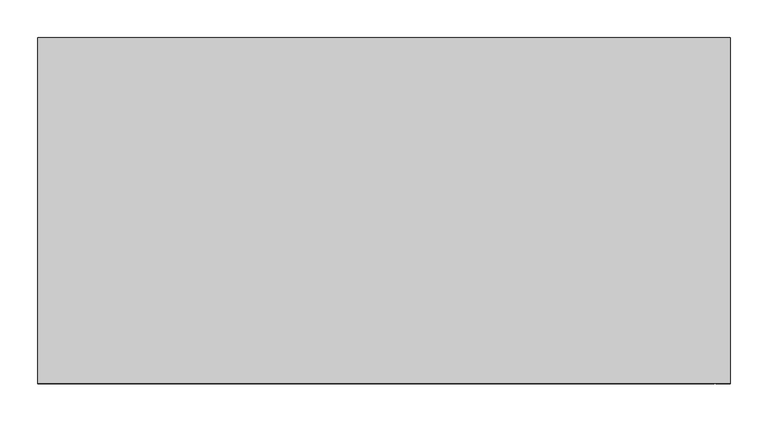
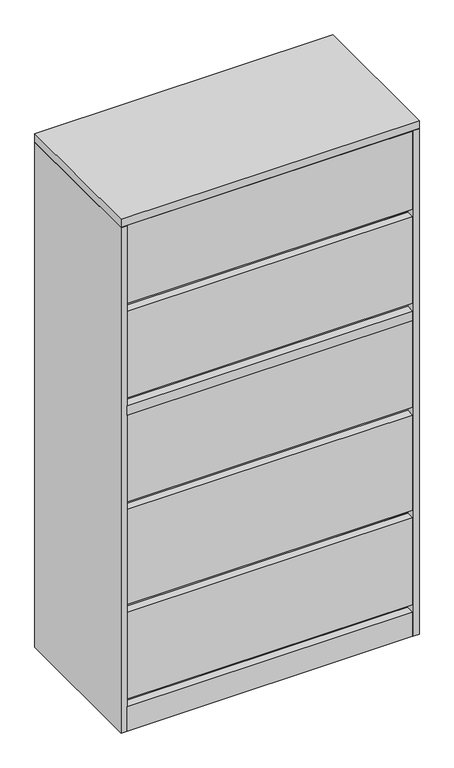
"""IFC4 building model written with IfcOpenShell, lengths in millimetres: furniture geometry, Steelcase - 900 Series - Storage - Lateral File With Posting Shelf - Flush Steel : One 12H Lift Up Door - 36W."""

from ifc_helpers import new_model, si_unit, frame, origin, origin_with_axes, place, context, project, spatial, polyline, outline, extrude, faceted_brep, source, transform, mapped, element, save


def furniture_d6017de1(model_context):
    return source(origin(), model_context, "Body", "SolidModel", [
        extrude(outline(polyline([(893.5722015, -457.2), (20.8289612, -457.2), (20.8289612, -431.800255), (893.5722015, -431.800255), (893.5722015, -457.2)])), frame((0.0, 0.0, 103.3780013), z_axis=(0.0, 0.0, 1.0), x_axis=(1.0, 0.0, 0.0)), (0.0, 0.0, 1.0), 280.7461987),
        extrude(outline(polyline([(893.5722015, -457.2), (20.8289612, -457.2), (20.8289612, -431.800255), (893.5722015, -431.800255), (893.5722015, -457.2)])), frame((0.0, 0.0, 409.5242), z_axis=(0.0, 0.0, 1.0), x_axis=(1.0, 0.0, 0.0)), (0.0, 0.0, 1.0), 307.54066),
        extrude(outline(polyline([(893.5722015, -457.2), (20.8289612, -457.2), (20.8289612, -431.800255), (893.5722015, -431.800255), (893.5722015, -457.2)])), frame((0.0, 0.0, 742.46486), z_axis=(0.0, 0.0, 1.0), x_axis=(1.0, 0.0, 0.0)), (0.0, 0.0, 1.0), 279.4),
        extrude(outline(polyline([(893.5722015, -457.2), (20.8289612, -457.2), (20.8289612, -431.800255), (893.5722015, -431.800255), (893.5722015, -457.2)])), frame((0.0, 0.0, 1079.5), z_axis=(0.0, 0.0, 1.0), x_axis=(1.0, 0.0, 0.0)), (0.0, 0.0, 1.0), 279.4),
        extrude(outline(polyline([(893.5722015, -457.2), (20.8289612, -457.2), (20.8289612, -431.800255), (893.5722015, -431.800255), (893.5722015, -457.2)])), frame((0.0, 0.0, 1384.3), z_axis=(0.0, 0.0, 1.0), x_axis=(1.0, 0.0, 0.0)), (0.0, 0.0, 1.0), 252.3046248),
        extrude(outline(polyline([(893.5722015, -457.2), (19.3039998, -457.2), (19.3039998, -431.800255), (893.5722015, -431.800255), (893.5722015, -457.2)])), frame((0.0, 0.0, 1022.5278), z_axis=(0.0, 0.0, 1.0), x_axis=(1.0, 0.0, 0.0)), (0.0, 0.0, 1.0), 31.5722),
        extrude(outline(polyline([(895.0960184, -25.2721219), (895.0960184, -431.800255), (19.3039998, -431.800255), (19.3039998, -25.2721219), (895.0960184, -25.2721219)])), frame((0.0, 0.0, 1358.9), z_axis=(0.0, 0.0, 1.0), x_axis=(1.0, 0.0, 0.0)), (0.0, 0.0, 1.0), 25.4),
        extrude(outline(polyline([(895.0960184, -25.2721219), (895.0960184, -431.800255), (19.3039998, -431.800255), (19.3039998, -25.2721219), (895.0960184, -25.2721219)])), frame((0.0, 0.0, 1054.1000242), z_axis=(0.0, 0.0, 1.0), x_axis=(1.0, 0.0, 0.0)), (0.0, 0.0, 1.0), 25.4),
        extrude(outline(polyline([(895.0960184, -25.2721219), (895.0960184, -431.800255), (19.3039998, -431.800255), (19.3039998, -25.2721219), (895.0960184, -25.2721219)])), frame((0.0, 0.0, 717.06486), z_axis=(0.0, 0.0, 1.0), x_axis=(1.0, 0.0, 0.0)), (0.0, 0.0, 1.0), 25.4),
        extrude(outline(polyline([(895.0960184, -25.2721219), (895.0960184, -431.800255), (19.3039998, -431.800255), (19.3039998, -25.2721219), (895.0960184, -25.2721219)])), frame((0.0, 0.0, 384.1242037), z_axis=(0.0, 0.0, 1.0), x_axis=(1.0, 0.0, 0.0)), (0.0, 0.0, 1.0), 25.4),
        extrude(outline(polyline([(-430.275847, 77.9779983), (-430.275847, 103.3780013), (-25.2721219, 103.3780013), (-25.2721219, 0.0), (-457.2, 0.0), (-457.2, 77.9779983), (-430.275847, 77.9779983)])), frame((19.3039998, 0.0, 0.0), z_axis=(1.0, 0.0, 0.0), x_axis=(0.0, 1.0, 0.0)), (0.0, 0.0, 1.0), 874.2682018),
        faceted_brep([(914.4, 0.0, 1663.7), (0.0, 0.0, 1663.7), (0.0, -457.2, 1663.7), (914.4, -457.2, 1663.7), (914.4, 0.0, 1638.2999516), (914.4, -457.2, 1638.2999516), (0.0, -457.2, 1638.2999516), (0.0, 0.0, 1638.2999516), (895.0960184, -25.2721219, 1638.2999516), (20.8289612, -25.2721219, 1638.2999516), (20.8289612, -415.9241219, 1638.2999516), (895.0960184, -415.9241219, 1638.2999516), (895.0960184, -25.2721219, 1636.776), (895.0960184, -415.9241219, 1636.776), (20.8289612, -415.9241219, 1636.776), (20.8289612, -25.2721219, 1636.776)], [[[0, 1, 2, 3]], [[4, 5, 6, 7], [8, 9, 10, 11]], [[1, 0, 4, 7]], [[2, 1, 7, 6]], [[3, 2, 6, 5]], [[0, 3, 5, 4]], [[12, 13, 14, 15]], [[12, 15, 9, 8]], [[15, 14, 10, 9]], [[14, 13, 11, 10]], [[13, 12, 8, 11]]]),
        extrude(outline(polyline([(895.0960184, -25.2721219), (19.3039998, -25.2721219), (19.3039998, -457.2), (0.0, -457.2), (0.0, 0.0), (914.4, 0.0), (914.4, -457.2), (895.0960184, -457.2), (895.0960184, -25.2721219)])), origin_with_axes(), (0.0, 0.0, 1.0), 1636.776),
    ])


if __name__ == "__main__":
    model = new_model("IFC4")
    model_context = context("Model", 3, world=origin())
    ifc_project = project(units=[si_unit("LENGTHUNIT", "METRE", prefix="MILLI")], contexts=[model_context])
    site = spatial("IfcSite", under=ifc_project)
    building = spatial("IfcBuilding", under=site)
    placement = place(None, origin())
    furniture_shape = furniture_d6017de1(model_context)
    element("IfcFurniture", 1, ObjectType="Steelcase - 900 Series - Storage - Lateral File With Posting Shelf - Flush Steel : One 12H Lift Up Door - 36W", at=placement, inside=building, context=model_context, shape_type="MappedRepresentation", body=[
        mapped(furniture_shape, transform((0.0, 0.0, 0.0), x_axis=(1.0, 0.0, 0.0), y_axis=(0.0, 1.0, 0.0), z_axis=(0.0, 0.0, 1.0))),
    ])
    save(model, "model.ifc")
